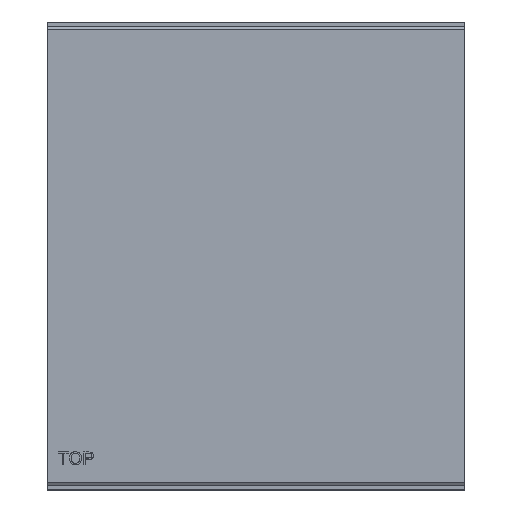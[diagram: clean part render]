
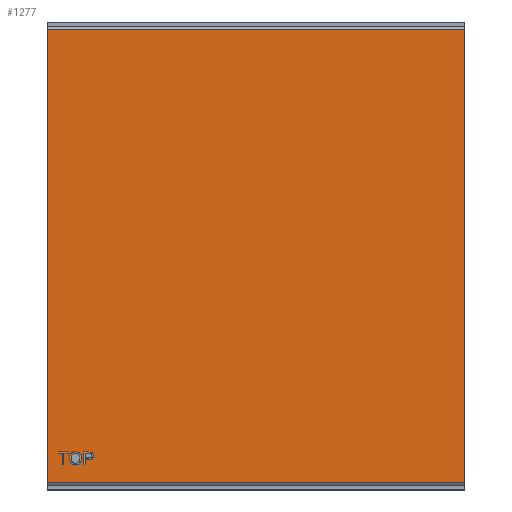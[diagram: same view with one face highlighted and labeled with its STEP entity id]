
A CAD part, top view. The second image highlights one B-rep face of the part: STEP entity #1277.
In plain terms, the highlighted planar face has unit normal (0, 0, 1).
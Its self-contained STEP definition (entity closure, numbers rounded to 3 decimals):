
#304=CARTESIAN_POINT('',(22.152,-95.665,0.));
#305=VERTEX_POINT('',#304);
#306=CARTESIAN_POINT('',(19.869,-97.52,0.));
#307=VERTEX_POINT('',#306);
#308=CARTESIAN_POINT('',(22.152,-95.665,0.));
#309=CARTESIAN_POINT('',(22.152,-96.442,0.));
#310=CARTESIAN_POINT('',(21.161,-97.52,0.));
#311=CARTESIAN_POINT('',(19.869,-97.52,0.));
#312=QUASI_UNIFORM_CURVE('',2,(#308,#309,#310,#311),.UNSPECIFIED.,.F.,.U.);
#313=EDGE_CURVE('',#305,#307,#312,.T.);
#336=CARTESIAN_POINT('',(18.302,-97.52,0.));
#337=VERTEX_POINT('',#336);
#338=CARTESIAN_POINT('',(19.869,-97.52,0.));
#339=DIRECTION('',(-1.0,0.0,0.0));
#340=VECTOR('',#339,1.567);
#341=LINE('',#338,#340);
#342=EDGE_CURVE('',#307,#337,#341,.T.);
#360=CARTESIAN_POINT('',(18.302,-99.998,0.));
#361=VERTEX_POINT('',#360);
#362=CARTESIAN_POINT('',(18.302,-97.52,0.));
#363=DIRECTION('',(0.0,-1.0,0.0));
#364=VECTOR('',#363,2.478);
#365=LINE('',#362,#364);
#366=EDGE_CURVE('',#337,#361,#365,.T.);
#384=CARTESIAN_POINT('',(17.493,-99.998,0.));
#385=VERTEX_POINT('',#384);
#386=CARTESIAN_POINT('',(18.302,-99.998,0.));
#387=DIRECTION('',(-1.0,0.0,0.0));
#388=VECTOR('',#387,0.809);
#389=LINE('',#386,#388);
#390=EDGE_CURVE('',#361,#385,#389,.T.);
#486=CARTESIAN_POINT('',(20.724,-93.959,0.));
#487=VERTEX_POINT('',#486);
#488=CARTESIAN_POINT('',(20.724,-93.959,0.));
#489=CARTESIAN_POINT('',(21.175,-94.033,0.));
#490=CARTESIAN_POINT('',(21.78,-94.452,0.));
#491=CARTESIAN_POINT('',(22.152,-95.21,0.));
#492=CARTESIAN_POINT('',(22.152,-95.665,0.));
#493=QUASI_UNIFORM_CURVE('',2,(#488,#489,#490,#491,#492),.UNSPECIFIED.,.F.,.U.);
#494=EDGE_CURVE('',#487,#305,#493,.T.);
#514=CARTESIAN_POINT('',(19.794,-93.898,0.));
#515=VERTEX_POINT('',#514);
#516=CARTESIAN_POINT('',(19.794,-93.898,0.));
#517=CARTESIAN_POINT('',(20.403,-93.898,0.));
#518=CARTESIAN_POINT('',(20.724,-93.959,0.));
#519=QUASI_UNIFORM_CURVE('',2,(#516,#517,#518),.UNSPECIFIED.,.F.,.U.);
#520=EDGE_CURVE('',#515,#487,#519,.T.);
#538=CARTESIAN_POINT('',(17.493,-93.898,0.));
#539=VERTEX_POINT('',#538);
#540=CARTESIAN_POINT('',(17.493,-93.898,0.));
#541=DIRECTION('',(1.0,0.0,0.0));
#542=VECTOR('',#541,2.301);
#543=LINE('',#540,#542);
#544=EDGE_CURVE('',#539,#515,#543,.T.);
#562=CARTESIAN_POINT('',(17.493,-99.998,0.));
#563=DIRECTION('',(0.0,1.0,0.0));
#564=VECTOR('',#563,6.1);
#565=LINE('',#562,#564);
#566=EDGE_CURVE('',#385,#539,#565,.T.);
#651=CARTESIAN_POINT('',(10.035,-93.898,0.));
#652=VERTEX_POINT('',#651);
#653=CARTESIAN_POINT('',(10.035,-94.619,0.));
#654=VERTEX_POINT('',#653);
#655=CARTESIAN_POINT('',(10.035,-93.898,0.));
#656=DIRECTION('',(0.0,-1.0,0.0));
#657=VECTOR('',#656,0.721);
#658=LINE('',#655,#657);
#659=EDGE_CURVE('',#652,#654,#658,.T.);
#682=CARTESIAN_POINT('',(8.017,-94.619,0.));
#683=VERTEX_POINT('',#682);
#684=CARTESIAN_POINT('',(10.035,-94.619,0.));
#685=DIRECTION('',(-1.0,0.0,0.0));
#686=VECTOR('',#685,2.018);
#687=LINE('',#684,#686);
#688=EDGE_CURVE('',#654,#683,#687,.T.);
#706=CARTESIAN_POINT('',(8.017,-99.998,0.));
#707=VERTEX_POINT('',#706);
#708=CARTESIAN_POINT('',(8.017,-94.619,0.));
#709=DIRECTION('',(0.0,-1.0,0.0));
#710=VECTOR('',#709,5.379);
#711=LINE('',#708,#710);
#712=EDGE_CURVE('',#683,#707,#711,.T.);
#730=CARTESIAN_POINT('',(7.208,-99.998,0.));
#731=VERTEX_POINT('',#730);
#732=CARTESIAN_POINT('',(8.017,-99.998,0.));
#733=DIRECTION('',(-1.0,0.0,0.0));
#734=VECTOR('',#733,0.809);
#735=LINE('',#732,#734);
#736=EDGE_CURVE('',#707,#731,#735,.T.);
#754=CARTESIAN_POINT('',(5.2,-93.898,0.));
#755=VERTEX_POINT('',#754);
#756=CARTESIAN_POINT('',(5.2,-93.898,0.));
#757=DIRECTION('',(1.0,0.0,0.0));
#758=VECTOR('',#757,4.835);
#759=LINE('',#756,#758);
#760=EDGE_CURVE('',#755,#652,#759,.T.);
#778=CARTESIAN_POINT('',(5.2,-94.619,0.));
#779=VERTEX_POINT('',#778);
#780=CARTESIAN_POINT('',(5.2,-94.619,0.));
#781=DIRECTION('',(0.0,1.0,0.0));
#782=VECTOR('',#781,0.721);
#783=LINE('',#780,#782);
#784=EDGE_CURVE('',#779,#755,#783,.T.);
#802=CARTESIAN_POINT('',(7.208,-94.619,0.));
#803=VERTEX_POINT('',#802);
#804=CARTESIAN_POINT('',(7.208,-94.619,0.));
#805=DIRECTION('',(-1.0,0.0,0.0));
#806=VECTOR('',#805,2.009);
#807=LINE('',#804,#806);
#808=EDGE_CURVE('',#803,#779,#807,.T.);
#826=CARTESIAN_POINT('',(7.208,-99.998,0.));
#827=DIRECTION('',(0.0,1.0,0.0));
#828=VECTOR('',#827,5.379);
#829=LINE('',#826,#828);
#830=EDGE_CURVE('',#731,#803,#829,.T.);
#847=CARTESIAN_POINT('',(10.621,-97.027,0.));
#848=VERTEX_POINT('',#847);
#849=CARTESIAN_POINT('',(13.541,-93.791,0.));
#850=VERTEX_POINT('',#849);
#851=CARTESIAN_POINT('',(10.621,-97.027,0.));
#852=CARTESIAN_POINT('',(10.621,-95.507,0.));
#853=CARTESIAN_POINT('',(12.253,-93.791,0.));
#854=CARTESIAN_POINT('',(13.541,-93.791,0.));
#855=QUASI_UNIFORM_CURVE('',2,(#851,#852,#853,#854),.UNSPECIFIED.,.F.,.U.);
#856=EDGE_CURVE('',#848,#850,#855,.T.);
#898=CARTESIAN_POINT('',(16.456,-96.958,0.));
#899=VERTEX_POINT('',#898);
#900=CARTESIAN_POINT('',(13.541,-93.791,0.));
#901=CARTESIAN_POINT('',(14.387,-93.791,0.));
#902=CARTESIAN_POINT('',(15.745,-94.6,0.));
#903=CARTESIAN_POINT('',(16.456,-96.042,0.));
#904=CARTESIAN_POINT('',(16.456,-96.958,0.));
#905=QUASI_UNIFORM_CURVE('',2,(#900,#901,#902,#903,#904),.UNSPECIFIED.,.F.,.U.);
#906=EDGE_CURVE('',#850,#899,#905,.T.);
#1039=CARTESIAN_POINT('',(13.541,-100.101,0.));
#1040=VERTEX_POINT('',#1039);
#1041=CARTESIAN_POINT('',(13.541,-100.101,0.));
#1042=CARTESIAN_POINT('',(12.676,-100.101,0.));
#1043=CARTESIAN_POINT('',(11.319,-99.268,0.));
#1044=CARTESIAN_POINT('',(10.621,-97.832,0.));
#1045=CARTESIAN_POINT('',(10.621,-97.027,0.));
#1046=QUASI_UNIFORM_CURVE('',2,(#1041,#1042,#1043,#1044,#1045),.UNSPECIFIED.,.F.,.U.);
#1047=EDGE_CURVE('',#1040,#848,#1046,.T.);
#1085=CARTESIAN_POINT('',(16.456,-96.958,0.));
#1086=CARTESIAN_POINT('',(16.456,-97.883,0.));
#1087=CARTESIAN_POINT('',(15.708,-99.347,0.));
#1088=CARTESIAN_POINT('',(14.331,-100.101,0.));
#1089=CARTESIAN_POINT('',(13.541,-100.101,0.));
#1090=QUASI_UNIFORM_CURVE('',2,(#1085,#1086,#1087,#1088,#1089),.UNSPECIFIED.,.F.,.U.);
#1091=EDGE_CURVE('',#899,#1040,#1090,.T.);
#1212=CARTESIAN_POINT('',(0.0,0.,0.0));
#1213=DIRECTION('',(0.0,0.0,1.0));
#1214=DIRECTION('',(1.0,0.0,0.0));
#1215=AXIS2_PLACEMENT_3D('',#1212,#1213,#1214);
#1216=PLANE('',#1215);
#1217=CARTESIAN_POINT('',(200.0,-108.5,0.));
#1218=VERTEX_POINT('',#1217);
#1219=CARTESIAN_POINT('',(200.0,108.5,0.));
#1220=VERTEX_POINT('',#1219);
#1221=CARTESIAN_POINT('',(200.0,-108.5,0.));
#1222=DIRECTION('',(0.0,1.0,0.0));
#1223=VECTOR('',#1222,217.0);
#1224=LINE('',#1221,#1223);
#1225=EDGE_CURVE('',#1218,#1220,#1224,.T.);
#1226=ORIENTED_EDGE('',*,*,#1225,.T.);
#1227=CARTESIAN_POINT('',(0.0,108.5,0.));
#1228=VERTEX_POINT('',#1227);
#1229=CARTESIAN_POINT('',(0.0,108.5,0.));
#1230=DIRECTION('',(1.0,0.0,0.0));
#1231=VECTOR('',#1230,200.0);
#1232=LINE('',#1229,#1231);
#1233=EDGE_CURVE('',#1228,#1220,#1232,.T.);
#1234=ORIENTED_EDGE('',*,*,#1233,.F.);
#1235=CARTESIAN_POINT('',(0.0,-108.5,0.));
#1236=VERTEX_POINT('',#1235);
#1237=CARTESIAN_POINT('',(0.0,-108.5,0.));
#1238=DIRECTION('',(0.0,1.0,0.0));
#1239=VECTOR('',#1238,217.);
#1240=LINE('',#1237,#1239);
#1241=EDGE_CURVE('',#1236,#1228,#1240,.T.);
#1242=ORIENTED_EDGE('',*,*,#1241,.F.);
#1243=CARTESIAN_POINT('',(0.0,-108.5,0.));
#1244=DIRECTION('',(1.0,0.0,0.0));
#1245=VECTOR('',#1244,200.0);
#1246=LINE('',#1243,#1245);
#1247=EDGE_CURVE('',#1236,#1218,#1246,.T.);
#1248=ORIENTED_EDGE('',*,*,#1247,.T.);
#1249=EDGE_LOOP('',(#1226,#1234,#1242,#1248));
#1250=FACE_OUTER_BOUND('',#1249,.T.);
#1251=ORIENTED_EDGE('',*,*,#856,.T.);
#1252=ORIENTED_EDGE('',*,*,#906,.T.);
#1253=ORIENTED_EDGE('',*,*,#1091,.T.);
#1254=ORIENTED_EDGE('',*,*,#1047,.T.);
#1255=EDGE_LOOP('',(#1251,#1252,#1253,#1254));
#1256=FACE_BOUND('',#1255,.T.);
#1257=ORIENTED_EDGE('',*,*,#659,.T.);
#1258=ORIENTED_EDGE('',*,*,#688,.T.);
#1259=ORIENTED_EDGE('',*,*,#712,.T.);
#1260=ORIENTED_EDGE('',*,*,#736,.T.);
#1261=ORIENTED_EDGE('',*,*,#830,.T.);
#1262=ORIENTED_EDGE('',*,*,#808,.T.);
#1263=ORIENTED_EDGE('',*,*,#784,.T.);
#1264=ORIENTED_EDGE('',*,*,#760,.T.);
#1265=EDGE_LOOP('',(#1257,#1258,#1259,#1260,#1261,#1262,#1263,#1264));
#1266=FACE_BOUND('',#1265,.T.);
#1267=ORIENTED_EDGE('',*,*,#313,.T.);
#1268=ORIENTED_EDGE('',*,*,#342,.T.);
#1269=ORIENTED_EDGE('',*,*,#366,.T.);
#1270=ORIENTED_EDGE('',*,*,#390,.T.);
#1271=ORIENTED_EDGE('',*,*,#566,.T.);
#1272=ORIENTED_EDGE('',*,*,#544,.T.);
#1273=ORIENTED_EDGE('',*,*,#520,.T.);
#1274=ORIENTED_EDGE('',*,*,#494,.T.);
#1275=EDGE_LOOP('',(#1267,#1268,#1269,#1270,#1271,#1272,#1273,#1274));
#1276=FACE_BOUND('',#1275,.T.);
#1277=ADVANCED_FACE('',(#1250,#1256,#1266,#1276),#1216,.T.);
